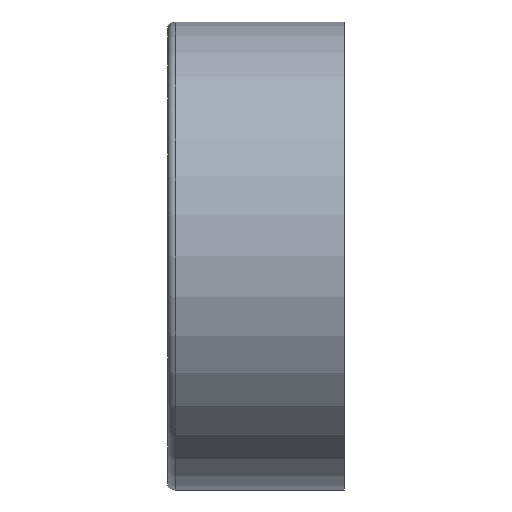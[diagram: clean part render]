
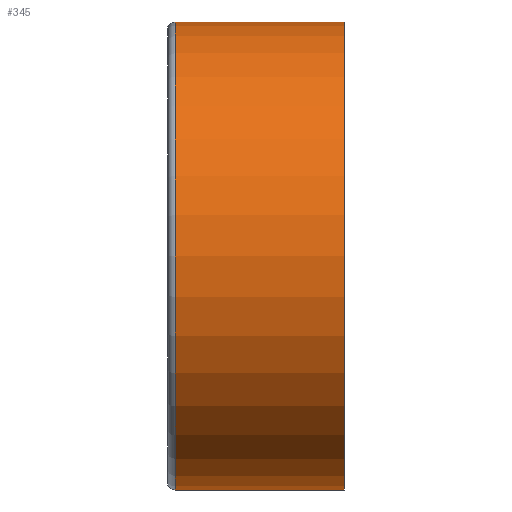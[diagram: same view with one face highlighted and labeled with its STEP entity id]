
A CAD part, left-side view. The second image highlights one B-rep face of the part: STEP entity #345.
In plain terms, the highlighted cylindrical face has radius 2.5 mm (diameter 5 mm), a partial arc.
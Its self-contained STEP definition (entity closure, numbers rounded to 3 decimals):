
#90 = VERTEX_POINT('',#91);
#91 = CARTESIAN_POINT('',(0.,1.81,-2.5));
#92 = VERTEX_POINT('',#93);
#93 = CARTESIAN_POINT('',(0.,1.81,2.5));
#134 = EDGE_CURVE('',#92,#135,#137,.T.);
#135 = VERTEX_POINT('',#136);
#136 = CARTESIAN_POINT('',(0.,0.,2.5));
#137 = LINE('',#138,#139);
#138 = CARTESIAN_POINT('',(0.,1.89,2.5));
#139 = VECTOR('',#140,1.);
#140 = DIRECTION('',(-0.,-1.,-0.));
#211 = VERTEX_POINT('',#212);
#212 = CARTESIAN_POINT('',(0.,0.,-2.5));
#219 = EDGE_CURVE('',#90,#211,#220,.T.);
#220 = LINE('',#221,#222);
#221 = CARTESIAN_POINT('',(0.,1.89,-2.5));
#222 = VECTOR('',#223,1.);
#223 = DIRECTION('',(-0.,-1.,-0.));
#345 = ADVANCED_FACE('',(#346),#364,.T.);
#346 = FACE_BOUND('',#347,.T.);
#347 = EDGE_LOOP('',(#348,#349,#356,#357));
#348 = ORIENTED_EDGE('',*,*,#134,.F.);
#349 = ORIENTED_EDGE('',*,*,#350,.T.);
#350 = EDGE_CURVE('',#92,#90,#351,.T.);
#351 = CIRCLE('',#352,2.5);
#352 = AXIS2_PLACEMENT_3D('',#353,#354,#355);
#353 = CARTESIAN_POINT('',(0.,1.81,0.));
#354 = DIRECTION('',(0.,-1.,0.));
#355 = DIRECTION('',(0.,0.,1.));
#356 = ORIENTED_EDGE('',*,*,#219,.T.);
#357 = ORIENTED_EDGE('',*,*,#358,.T.);
#358 = EDGE_CURVE('',#211,#135,#359,.T.);
#359 = CIRCLE('',#360,2.5);
#360 = AXIS2_PLACEMENT_3D('',#361,#362,#363);
#361 = CARTESIAN_POINT('',(0.,0.,0.));
#362 = DIRECTION('',(0.,1.,0.));
#363 = DIRECTION('',(0.,-0.,1.));
#364 = CYLINDRICAL_SURFACE('',#365,2.5);
#365 = AXIS2_PLACEMENT_3D('',#366,#367,#368);
#366 = CARTESIAN_POINT('',(0.,1.89,0.));
#367 = DIRECTION('',(-0.,-1.,-0.));
#368 = DIRECTION('',(0.,0.,-1.));
